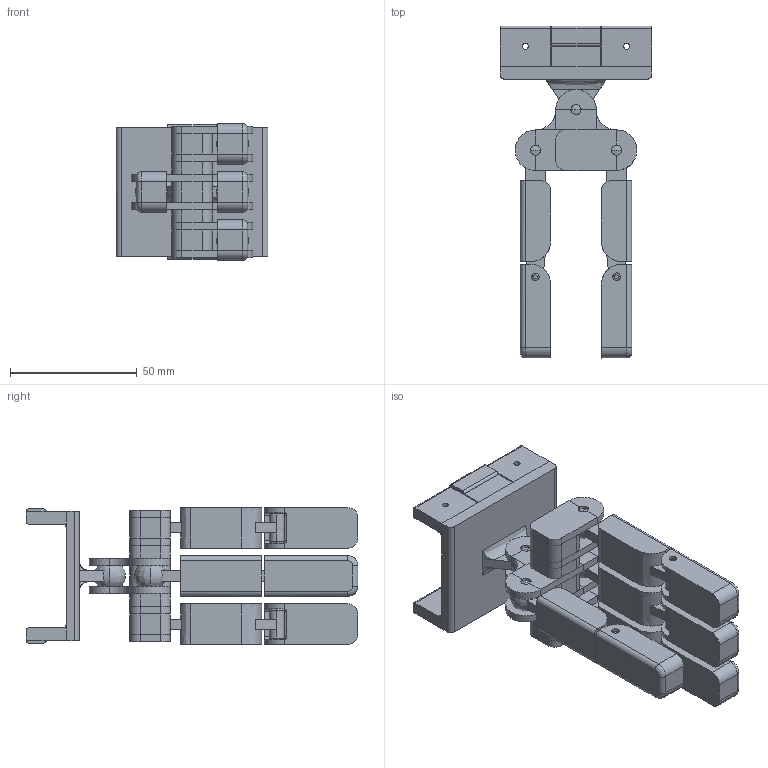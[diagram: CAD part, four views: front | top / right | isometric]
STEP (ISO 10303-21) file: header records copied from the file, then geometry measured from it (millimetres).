
FILE_DESCRIPTION(/* description */ (''),/* implementation_level */ '2;1');
FILE_NAME(/* name */ 'POSABL~1',/* time_stamp */ '2016-10-08T02:51:51-04:00',/* author */ (''),/* organization */ (''),/* preprocessor_version */ 'ST-DEVELOPER v15',/* originating_system */ '',/* authorisation */ '');
FILE_SCHEMA (('AUTOMOTIVE_DESIGN'));
Length unit declared in the file: millimetre
Products named in the file (1): Document
Bounding box: 60 x 131 x 54 mm (x, y, z)
Volume: 97039.1 mm3; surface area: 42799 mm2
Topology: 10 solids, 10 shells, 542 faces, 1322 edges, 766 vertices
Faces by surface type: bspline 280, plane 262
Entity records: 18317 total; most frequent: CARTESIAN_POINT 10358, ORIENTED_EDGE 2604, EDGE_CURVE 1302, VERTEX_POINT 766, B_SPLINE_CURVE_WITH_KNOTS 682, EDGE_LOOP 572, ADVANCED_FACE 542, FACE_OUTER_BOUND 542
